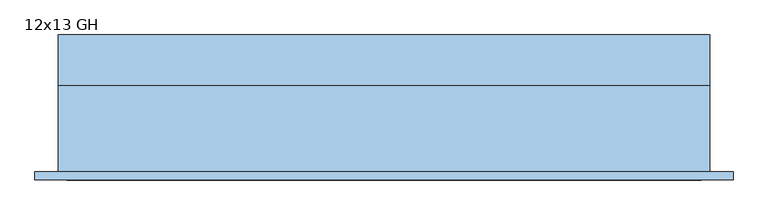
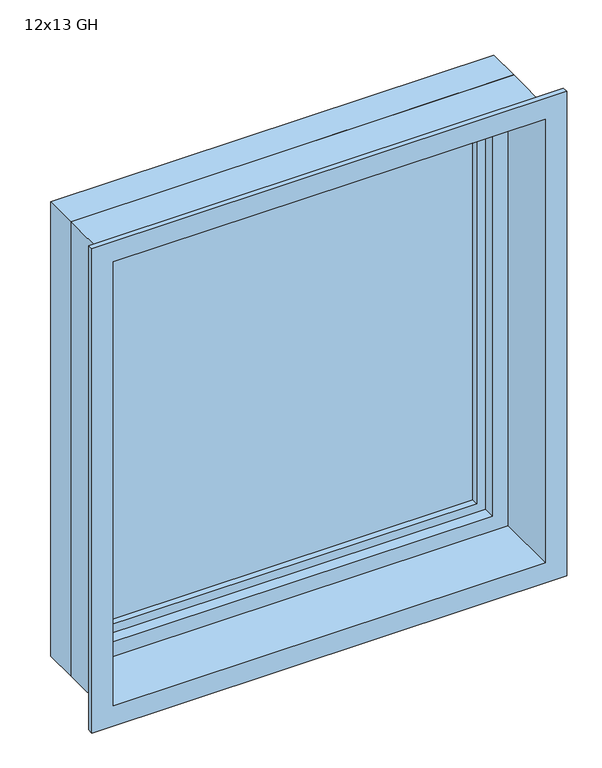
"""IFC4 building model written with IfcOpenShell, lengths in millimetres: window geometry, Vindu GHx2 : 12x13 GH."""

from ifc_helpers import new_model, si_unit, frame, origin, place, context, project, spatial, polyline, outline, extrude, faceted_brep, source, transform, mapped, element, save


def window_12x13_gh_d70a3594(model_context):
    return source(origin(), model_context, "Body", "SolidModel", [
        extrude(outline(polyline([(-514.0, 77.0), (514.0, 77.0), (514.0, 53.0), (-514.0, 53.0), (-514.0, 77.0)])), frame((0.0, 0.0, 971.0), z_axis=(0.0, 0.0, 1.0), x_axis=(1.0, 0.0, 0.0)), (0.0, 0.0, 1.0), 1128.0),
        extrude(outline(polyline([(929.0, -556.0), (929.0, 556.0), (2141.0, 556.0), (2141.0, -556.0), (929.0, -556.0)]), holes=[polyline([(2099.0, -514.0), (2099.0, 514.0), (971.0, 514.0), (971.0, -514.0), (2099.0, -514.0)])]), frame((0.0, 35.0, 0.0), z_axis=(0.0, 1.0, 0.0), x_axis=(0.0, 0.0, 1.0)), (0.0, 0.0, 1.0), 60.0),
        faceted_brep([(-595.0, 95.0, 890.0), (-595.0, 3.0, 890.0), (-595.0, 3.0, 2180.0), (-595.0, 95.0, 2180.0), (-556.0, 35.0, 929.0), (-556.0, 95.0, 929.0), (-556.0, 95.0, 2141.0), (-556.0, 35.0, 2141.0), (-538.0, 3.0, 947.0), (-538.0, 35.0, 947.0), (-538.0, 35.0, 2123.0), (-538.0, 3.0, 2123.0), (595.0, 3.0, 2180.0), (595.0, 95.0, 2180.0), (556.0, 95.0, 2141.0), (556.0, 35.0, 2141.0), (538.0, 35.0, 2123.0), (538.0, 3.0, 2123.0), (595.0, 3.0, 890.0), (595.0, 95.0, 890.0), (556.0, 95.0, 929.0), (556.0, 35.0, 929.0), (538.0, 35.0, 947.0), (538.0, 3.0, 947.0)], [[[0, 1, 2, 3]], [[4, 5, 6, 7]], [[8, 9, 10, 11]], [[3, 2, 12, 13]], [[7, 6, 14, 15]], [[11, 10, 16, 17]], [[13, 12, 18, 19]], [[15, 14, 20, 21]], [[17, 16, 22, 23]], [[19, 18, 1, 0]], [[3, 13, 19, 0], [5, 20, 14, 6]], [[21, 20, 5, 4]], [[7, 15, 21, 4], [9, 22, 16, 10]], [[23, 22, 9, 8]], [[1, 18, 12, 2], [11, 17, 23, 8]]]),
        faceted_brep([(-595.0, -155.0, 890.0), (-595.0, 3.0, 890.0), (595.0, 3.0, 890.0), (595.0, -155.0, 890.0), (595.0, 3.0, 2180.0), (595.0, -155.0, 2180.0), (-595.0, 3.0, 2180.0), (580.0, 3.0, 2165.0), (-580.0, 3.0, 2165.0), (-580.0, 3.0, 905.0), (580.0, 3.0, 905.0), (638.0, -155.0, 847.0), (-638.0, -155.0, 847.0), (-638.0, -155.0, 2223.0), (638.0, -155.0, 2223.0), (-595.0, -155.0, 2180.0), (-638.0, -170.0, 847.0), (638.0, -170.0, 847.0), (638.0, -170.0, 2223.0), (-638.0, -170.0, 2223.0), (580.0, -170.0, 905.0), (-580.0, -170.0, 905.0), (-580.0, -170.0, 2165.0), (580.0, -170.0, 2165.0)], [[[0, 1, 2, 3]], [[3, 2, 4, 5]], [[2, 1, 6, 4], [7, 8, 9, 10]], [[11, 12, 13, 14], [5, 15, 0, 3]], [[16, 12, 11, 17]], [[17, 11, 14, 18]], [[18, 19, 16, 17], [20, 21, 22, 23]], [[9, 21, 20, 10]], [[10, 20, 23, 7]], [[15, 6, 1, 0]], [[19, 13, 12, 16]], [[8, 22, 21, 9]], [[5, 4, 6, 15]], [[18, 14, 13, 19]], [[7, 23, 22, 8]]]),
    ])


if __name__ == "__main__":
    model = new_model("IFC4")
    model_context = context("Model", 3, world=origin())
    ifc_project = project(units=[si_unit("LENGTHUNIT", "METRE", prefix="MILLI")], contexts=[model_context])
    site = spatial("IfcSite", under=ifc_project)
    building = spatial("IfcBuilding", under=site)
    placement = place(None, origin())
    window_12x13_gh_shape = window_12x13_gh_d70a3594(model_context)
    element("IfcWindow", 1, ObjectType="Vindu GHx2 : 12x13 GH", at=placement, inside=building, context=model_context, shape_type="MappedRepresentation", body=[
        mapped(window_12x13_gh_shape, transform((0.0, 0.0, 0.0), x_axis=(1.0, 0.0, 0.0), y_axis=(0.0, 1.0, 0.0), z_axis=(0.0, 0.0, 1.0))),
    ])
    save(model, "model.ifc")
